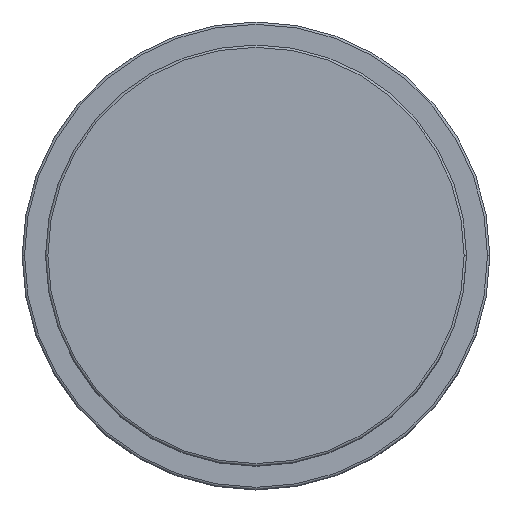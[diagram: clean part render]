
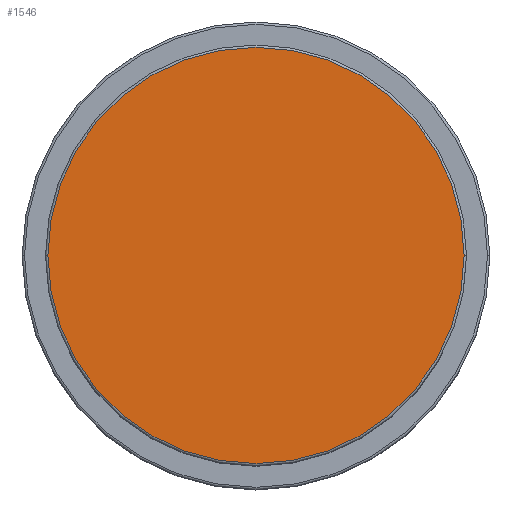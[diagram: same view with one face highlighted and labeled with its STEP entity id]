
A CAD part, top view. The second image highlights one B-rep face of the part: STEP entity #1546.
In plain terms, the highlighted planar face has unit normal (0, 0, 1).
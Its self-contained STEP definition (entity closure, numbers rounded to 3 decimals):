
#147 = CARTESIAN_POINT ( 'NONE',  ( -44.5, 0., 67. ) ) ;
#169 = EDGE_CURVE ( 'NONE', #791, #1001, #880, .T. ) ;
#173 = CIRCLE ( 'NONE', #1135, 44.5 ) ;
#415 = DIRECTION ( 'NONE',  ( 0., 0., 1. ) ) ;
#525 = DIRECTION ( 'NONE',  ( 0., 0., 1. ) ) ;
#681 = DIRECTION ( 'NONE',  ( 1., 0., 0. ) ) ;
#791 = VERTEX_POINT ( 'NONE', #147 ) ;
#880 = CIRCLE ( 'NONE', #961, 44.5 ) ;
#934 = ORIENTED_EDGE ( 'NONE', *, *, #1848, .T. ) ;
#943 = DIRECTION ( 'NONE',  ( 0., 0., 1. ) ) ;
#961 = AXIS2_PLACEMENT_3D ( 'NONE', #1724, #943, #1730 ) ;
#1001 = VERTEX_POINT ( 'NONE', #1468 ) ;
#1135 = AXIS2_PLACEMENT_3D ( 'NONE', #1141, #525, #681 ) ;
#1141 = CARTESIAN_POINT ( 'NONE',  ( 0., 0., 67. ) ) ;
#1194 = CARTESIAN_POINT ( 'NONE',  ( 0., 0., 67. ) ) ;
#1426 = FACE_OUTER_BOUND ( 'NONE', #1677, .T. ) ;
#1468 = CARTESIAN_POINT ( 'NONE',  ( 44.5, 0., 67. ) ) ;
#1510 = DIRECTION ( 'NONE',  ( 1., 0., 0. ) ) ;
#1546 = ADVANCED_FACE ( 'NONE', ( #1426 ), #1812, .T. ) ;
#1677 = EDGE_LOOP ( 'NONE', ( #934, #1727 ) ) ;
#1724 = CARTESIAN_POINT ( 'NONE',  ( 0., 0., 67. ) ) ;
#1727 = ORIENTED_EDGE ( 'NONE', *, *, #169, .T. ) ;
#1730 = DIRECTION ( 'NONE',  ( 1., 0., 0. ) ) ;
#1812 = PLANE ( 'NONE',  #1946 ) ;
#1848 = EDGE_CURVE ( 'NONE', #1001, #791, #173, .T. ) ;
#1946 = AXIS2_PLACEMENT_3D ( 'NONE', #1194, #415, #1510 ) ;
